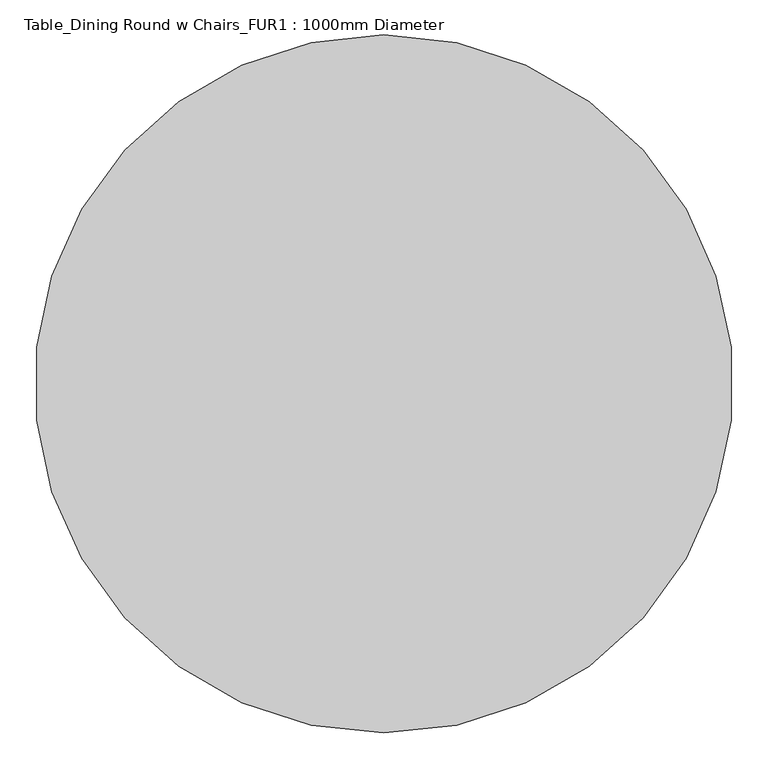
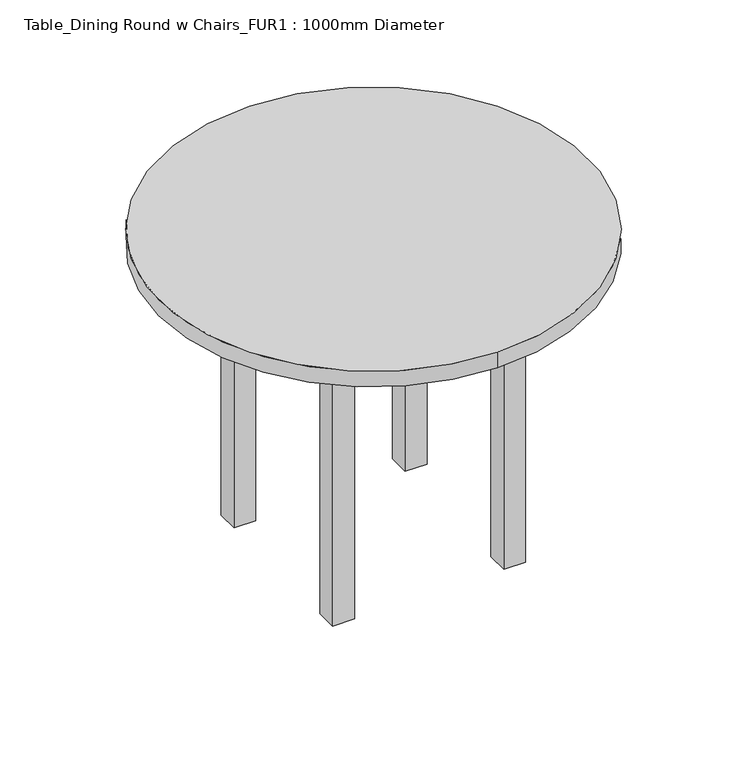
"""IFC4 building model written with IfcOpenShell, lengths in millimetres: furniture geometry, Table_Dining Round w Chairs_FUR1 : 1000mm Diameter."""

from ifc_helpers import new_model, si_unit, point, frame, frame_2d, origin, origin_with_axes, place, context, project, spatial, polyline, circle_curve, trimmed, segment, composite_curve, outline, extrude, source, transform, mapped, element, save


def table_dining_round_w_chairs_fur1_1000mm_diameter_ecc75b89(model_context):
    return source(origin(), model_context, "Body", "SweptSolid", [
        extrude(outline(polyline([(-70.1180328, 39.7213115), (-70.1180328, -11.0786885), (-120.9180328, -11.0786885), (-120.9180328, 39.7213115), (-70.1180328, 39.7213115)])), origin_with_axes(), (0.0, 0.0, 1.0), 647.7),
        extrude(outline(polyline([(277.4819672, 39.7213115), (328.2819672, 39.7213115), (328.2819672, -11.0786885), (277.4819672, -11.0786885), (277.4819672, 39.7213115)])), origin_with_axes(), (0.0, 0.0, 1.0), 647.7),
        extrude(outline(polyline([(277.4819672, -409.4786885), (277.4819672, -358.6786885), (328.2819672, -358.6786885), (328.2819672, -409.4786885), (277.4819672, -409.4786885)])), origin_with_axes(), (0.0, 0.0, 1.0), 647.7),
        extrude(outline(polyline([(-70.1180328, -409.4786885), (-120.9180328, -409.4786885), (-120.9180328, -358.6786885), (-70.1180328, -358.6786885), (-70.1180328, -409.4786885)])), origin_with_axes(), (0.0, 0.0, 1.0), 647.7),
        extrude(outline(polyline([(353.6819672, 65.1213115), (353.6819672, -434.8786885), (-146.3180328, -434.8786885), (-146.3180328, 65.1213115), (353.6819672, 65.1213115)]), holes=[polyline([(328.2819672, 39.7213115), (-120.9180328, 39.7213115), (-120.9180328, -409.4786885), (328.2819672, -409.4786885), (328.2819672, 39.7213115)])]), frame((0.0, 0.0, 647.7), z_axis=(0.0, 0.0, 1.0), x_axis=(1.0, 0.0, 0.0)), (0.0, 0.0, 1.0), 76.2),
        extrude(outline(composite_curve([segment(trimmed(circle_curve(frame_2d((103.6819672, -184.8786885)), 500.0), [point((103.6819672, -684.8786885))], [point((103.6819672, 315.1213115))], False, "CARTESIAN"), True, "CONTINUOUS"), segment(trimmed(circle_curve(frame_2d((103.6819672, -184.8786885)), 500.0), [point((103.6819672, 315.1213115))], [point((103.6819672, -684.8786885))], False, "CARTESIAN"), True, "CONTINUOUS")], self_intersect=False)), frame((0.0, 0.0, 723.9), z_axis=(0.0, 0.0, 1.0), x_axis=(1.0, 0.0, 0.0)), (0.0, 0.0, 1.0), 38.1),
    ])


if __name__ == "__main__":
    model = new_model("IFC4")
    model_context = context("Model", 3, world=origin())
    ifc_project = project(units=[si_unit("LENGTHUNIT", "METRE", prefix="MILLI")], contexts=[model_context])
    site = spatial("IfcSite", under=ifc_project)
    building = spatial("IfcBuilding", under=site)
    placement = place(None, origin())
    table_dining_round_w_chairs_fur1_1000mm_diameter_shape = table_dining_round_w_chairs_fur1_1000mm_diameter_ecc75b89(model_context)
    element("IfcFurniture", 1, ObjectType="Table_Dining Round w Chairs_FUR1 : 1000mm Diameter", at=placement, inside=building, context=model_context, shape_type="MappedRepresentation", body=[
        mapped(table_dining_round_w_chairs_fur1_1000mm_diameter_shape, transform((0.0, 0.0, 0.0), x_axis=(1.0, 0.0, 0.0), y_axis=(0.0, 1.0, 0.0), z_axis=(0.0, 0.0, 1.0))),
    ])
    save(model, "model.ifc")
